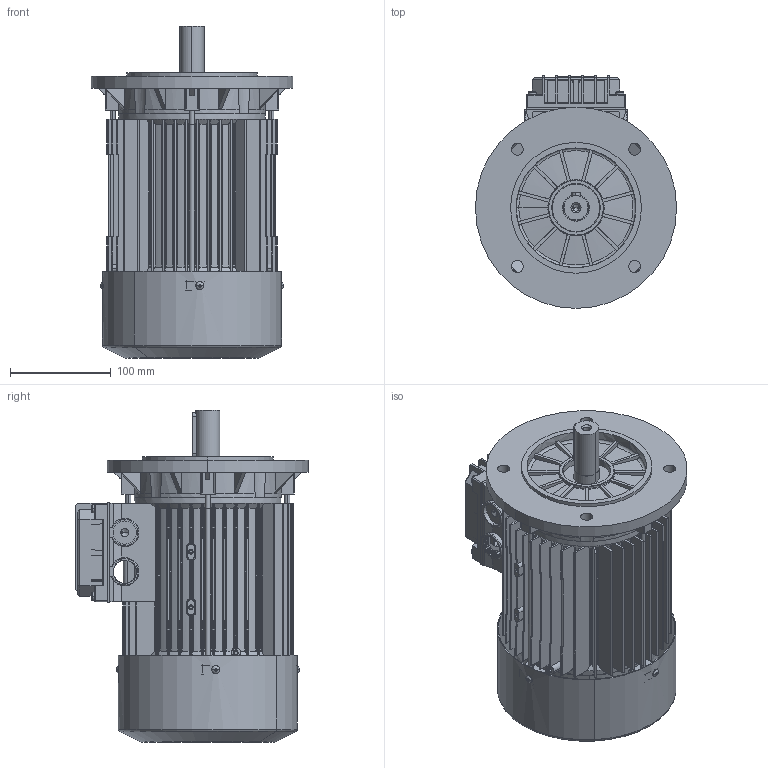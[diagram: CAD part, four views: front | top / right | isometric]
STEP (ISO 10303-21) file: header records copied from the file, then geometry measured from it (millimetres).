
FILE_DESCRIPTION (( 'STEP AP214' ), '1' );
FILE_NAME ('M24FB0010.STEP', '2019-02-25T10:29:54', ( '' ), ( '' ), 'SwSTEP 2.0', 'SolidWorks 2018', '' );
FILE_SCHEMA (( 'AUTOMOTIVE_DESIGN' ));
Length unit declared in the file: millimetre
Products named in the file (13): Tirante SM 90L; Scudo Lato Comando B3 BA-BM 90 - DDAD0094; Scudo a flangia B5 Fi 200 BA-BM 90 - DDAA00195; Carcassa 90 L B5; M24FB0010; Chiavetta 90; Albero SM 90 L; Vite testa rotonda M3; Cuffia SM 90; Coperchio per Scatola Singola 90 - 100 - 112 con viti; Guarnizione Coperchio Semplice Scatola BA 90 100 112 - DDAL0094; Vite  a testa bombata M4x16; Coperchio per Scatola Singola 90 - 100 - 112
Assembly tree (21 placements, depth 3):
  M24FB0010
    Carcassa 90 L B5
    Scudo a flangia B5 Fi 200 BA-BM 90 - DDAA00195
    Scudo Lato Comando B3 BA-BM 90 - DDAD0094
    Tirante SM 90L  x4
    Coperchio per Scatola Singola 90 - 100 - 112 con viti
      Coperchio per Scatola Singola 90 - 100 - 112
      Vite  a testa bombata M4x16  x4
      Guarnizione Coperchio Semplice Scatola BA 90 100 112 - DDAL0094
    Cuffia SM 90
    Vite testa rotonda M3  x4
    Albero SM 90 L
    Chiavetta 90
Bounding box: 200 x 231.5 x 330 mm (x, y, z)
Volume: 1253739.3 mm3; surface area: 771352.8 mm2
Topology: 24 solids, 24 shells, 4117 faces, 11218 edges, 7204 vertices
Faces by surface type: plane 1620, cylinder 1332, bspline 425, torus 366, cone 364, sphere 10
Entity records: 144755 total; most frequent: CARTESIAN_POINT 52986, ORIENTED_EDGE 20426, DIRECTION 17056, EDGE_CURVE 10213, VERTEX_POINT 6604, AXIS2_PLACEMENT_3D 6287, VECTOR 4482, LINE 4482
